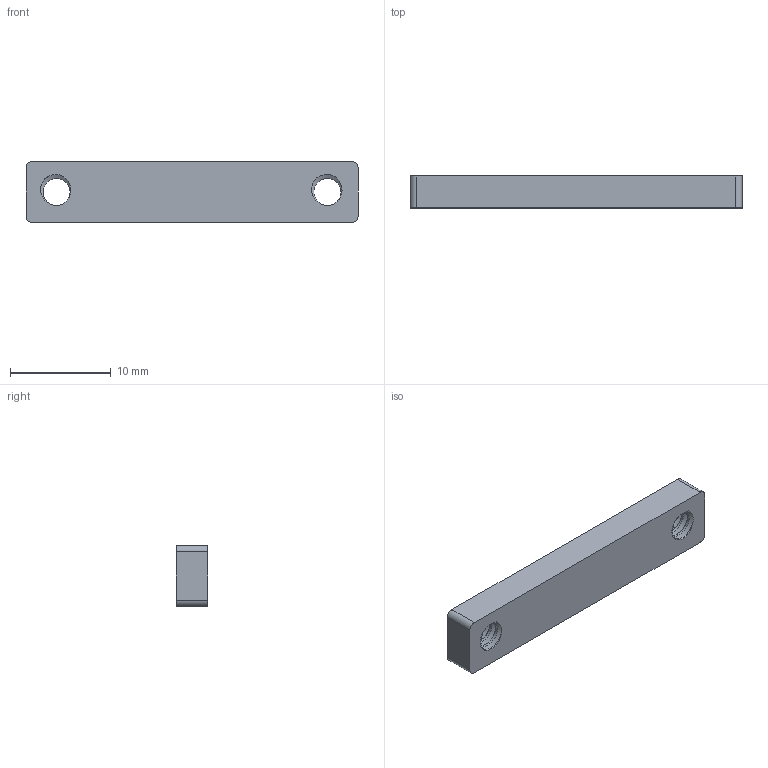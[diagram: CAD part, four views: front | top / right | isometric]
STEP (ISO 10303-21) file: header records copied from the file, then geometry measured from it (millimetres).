
FILE_DESCRIPTION (( 'STEP AP203' ), '1' );
FILE_NAME ('585472.STEP', '2016-08-22T19:57:10', ( '' ), ( '' ), 'SwSTEP 2.0', 'SolidWorks 2014', '' );
FILE_SCHEMA (( 'CONFIG_CONTROL_DESIGN' ));
Length unit declared in the file: inch
Products named in the file (1): 585472
Bounding box: 33.02 x 3.17 x 6.1 mm (x, y, z)
Volume: 591.5 mm3; surface area: 714.4 mm2
Topology: 1 solids, 1 shells, 53 faces, 153 edges, 102 vertices
Faces by surface type: cylinder 43, plane 6, bspline 4
Entity records: 4040 total; most frequent: CARTESIAN_POINT 2781, ORIENTED_EDGE 306, DIRECTION 195, EDGE_CURVE 153, VERTEX_POINT 102, AXIS2_PLACEMENT_3D 72, EDGE_LOOP 57, FACE_OUTER_BOUND 53
